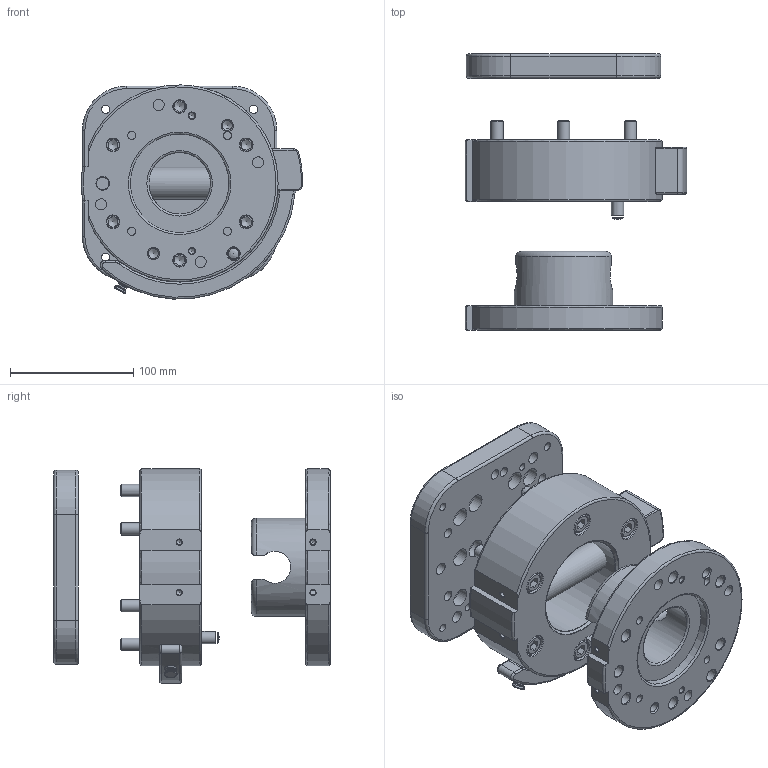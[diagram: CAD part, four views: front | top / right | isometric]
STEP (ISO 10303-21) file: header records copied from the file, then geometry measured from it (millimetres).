
FILE_DESCRIPTION(/* description */ (''),/* implementation_level */ '2;1');
FILE_NAME(/* name */ 'T:\Base Connector SHW160 LT.stp',/* time_stamp */ '2022-05-25T08:40:25+02:00',/* author */ ('ysplieth'),/* organization */ (''),/* preprocessor_version */ 'ST-DEVELOPER v17',/* originating_system */ 'Autodesk Inventor 2018',/* authorisation */ '');
FILE_SCHEMA (('AUTOMOTIVE_DESIGN { 1 0 10303 214 3 1 1 }'));
Length unit declared in the file: millimetre
Products named in the file (5): Base Connector SHW160 LT; G-SHW160-2OE-UR LT; G-SHW160-2UE-BC01 LT; G-UF158-20 UR10-Baseflansch; ISO 4762 - M10 x 55ISO
Assembly tree (9 placements, depth 2):
  Base Connector SHW160 LT
    G-SHW160-2OE-UR LT
    G-SHW160-2UE-BC01 LT
    G-UF158-20 UR10-Baseflansch
    ISO 4762 - M10 x 55ISO  x6
Bounding box: 179.85 x 224.61 x 174.02 mm (x, y, z)
Volume: 1733681.8 mm3; surface area: 283601.6 mm2
Topology: 15 solids, 15 shells, 461 faces, 1252 edges, 862 vertices
Faces by surface type: cylinder 177, plane 138, cone 81, torus 63, sphere 2
Full cylindrical faces by diameter (mm): 4.134 x4, 5 x10, 5.58 x1, 6 x4, 6.2 x1, 6.6 x4, 6.75 x8, 6.8 x1, 7 x1, 7.8 x1, 8 x4, 8.5 x6, 9 x16, 10 x16, 10.1 x2, 10.106 x12, 10.6 x1, 11 x4, 15 x16, 16 x6, 18 x12, 26 x1, 50 x1, 80 x3
Entity records: 13771 total; most frequent: CARTESIAN_POINT 2797, DIRECTION 2414, ORIENTED_EDGE 2048, AXIS2_PLACEMENT_3D 1045, EDGE_CURVE 1024, VERTEX_POINT 717, CIRCLE 641, EDGE_LOOP 565
